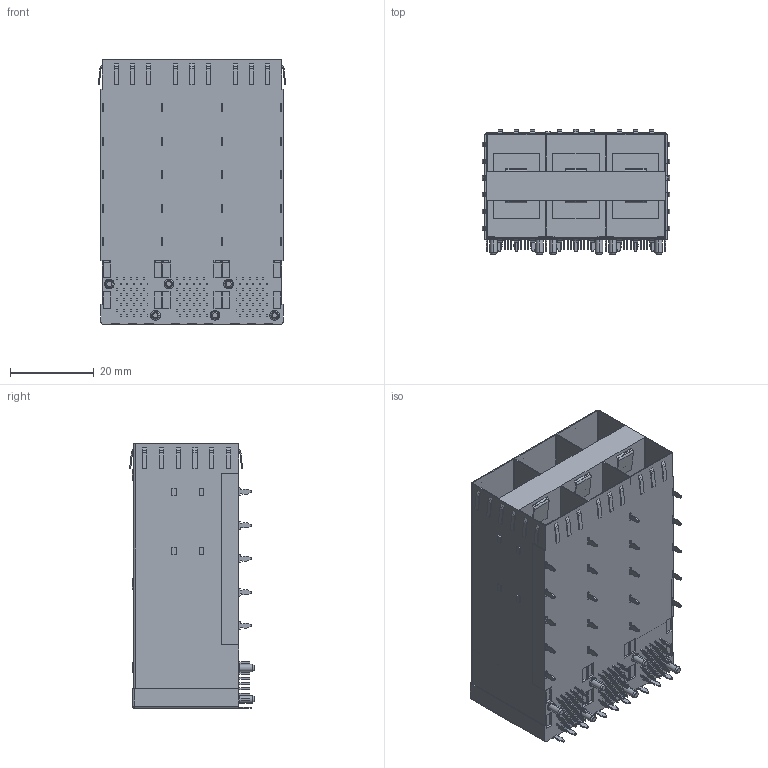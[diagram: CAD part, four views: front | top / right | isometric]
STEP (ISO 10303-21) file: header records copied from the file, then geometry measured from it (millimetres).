
FILE_DESCRIPTION (( 'STEP AP214' ), '1' );
FILE_NAME ('SFP 2X3 ﾎﾞﾔﾂﾑﾀ ﾎﾞｵﾆ.STEP', '2025-06-12T01:02:17', ( 'ﾉ｣ﾈｲｩｿﾍ' ), ( 'Www.SangSan.Cn' ), 'SwSTEP 2.0', 'SolidWorks 2018', '' );
FILE_SCHEMA (( 'AUTOMOTIVE_DESIGN' ));
Products named in the file (1): SFP 2X3 拸堎挴 拸腑
Bounding box: 44.8 x 29.8 x 63.25 mm (x, y, z)
Volume: 35180.4 mm3; surface area: 26110.5 mm2
Topology: 1 solids, 1 shells, 1803 faces, 4796 edges, 3186 vertices
Faces by surface type: plane 1343, cylinder 434, cone 24, sphere 2
Entity records: 55722 total; most frequent: CARTESIAN_POINT 9784, ORIENTED_EDGE 9588, DIRECTION 9294, EDGE_CURVE 4794, LINE 3902, VECTOR 3902, VERTEX_POINT 3186, AXIS2_PLACEMENT_3D 2696
